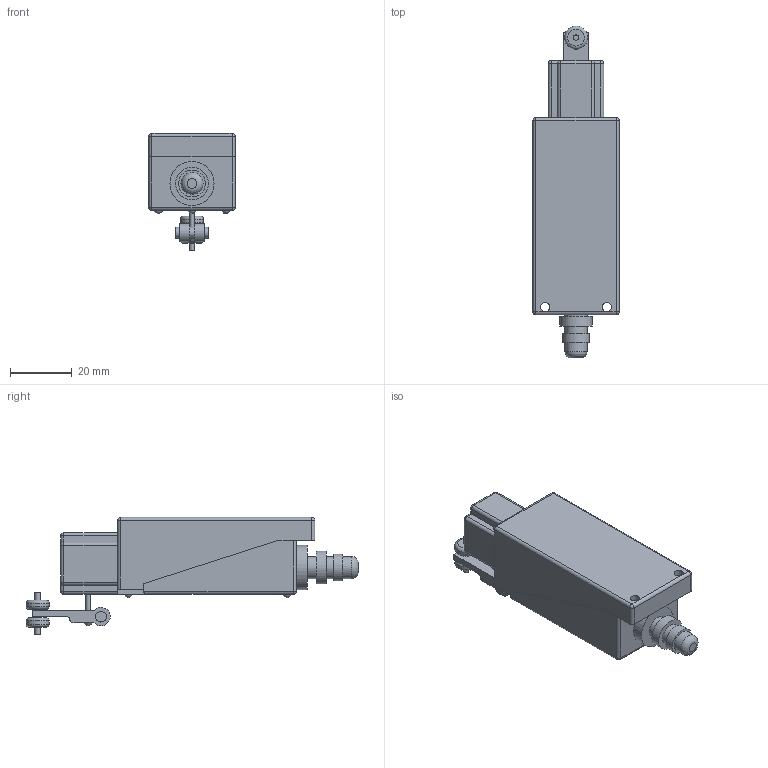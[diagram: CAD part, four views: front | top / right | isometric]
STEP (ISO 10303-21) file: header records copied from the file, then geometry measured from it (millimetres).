
FILE_DESCRIPTION(/* description */ (''),/* implementation_level */ '2;1');
FILE_NAME(/* name */ 'D:\CHINT3\YBLX-ME_8108.stp',/* time_stamp */ '2017-12-11T20:12:50+03:00',/* author */ ('RSagdiev'),/* organization */ (''),/* preprocessor_version */ 'ST-DEVELOPER v16.5',/* originating_system */ 'Autodesk Inventor 2017',/* authorisation */ '');
FILE_SCHEMA (('AUTOMOTIVE_DESIGN { 1 0 10303 214 3 1 1 }'));
Length unit declared in the file: millimetre
Products named in the file (1): YBLX-ME_8108
Bounding box: 28 x 107.72 x 38 mm (x, y, z)
Volume: 49569.1 mm3; surface area: 15455.9 mm2
Topology: 13 solids, 13 shells, 158 faces, 328 edges, 201 vertices
Faces by surface type: plane 69, cylinder 66, sphere 17, torus 4, bspline 2
Full cylindrical faces by diameter (mm): 1.5 x1, 1.767 x4, 3 x10, 3.5 x3, 7.163 x3, 7.5 x2, 8.723 x1, 10.59 x1, 14.326 x1
Entity records: 4047 total; most frequent: DIRECTION 734, CARTESIAN_POINT 695, ORIENTED_EDGE 574, AXIS2_PLACEMENT_3D 292, EDGE_CURVE 287, EDGE_LOOP 212, VERTEX_POINT 193, FACE_OUTER_BOUND 158
